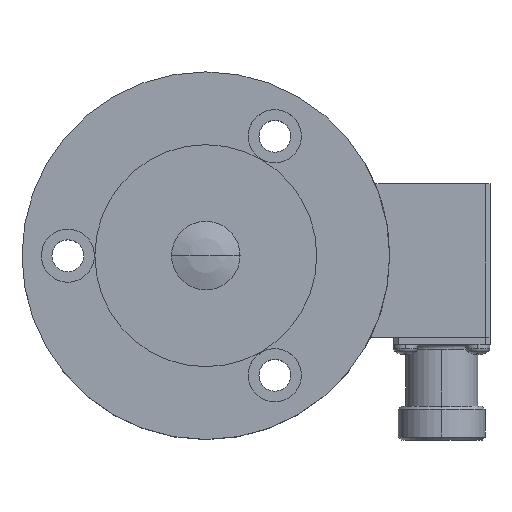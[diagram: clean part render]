
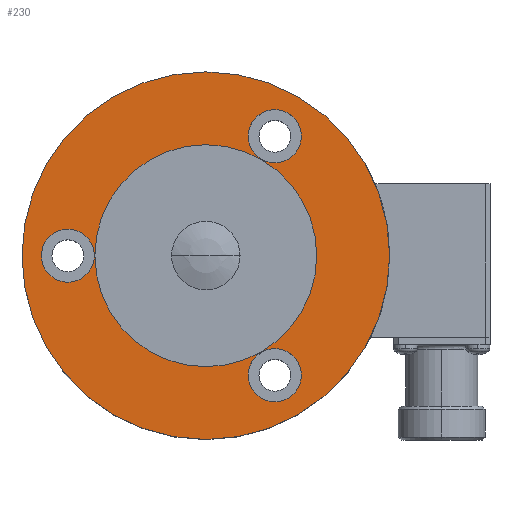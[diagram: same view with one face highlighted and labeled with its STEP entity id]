
A CAD part, top view. The second image highlights one B-rep face of the part: STEP entity #230.
In plain terms, the highlighted planar face has unit normal (0, 0, 1).
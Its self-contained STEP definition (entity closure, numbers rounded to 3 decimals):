
#230=ADVANCED_FACE('',(#560,#561,#562,#563,#564),#565,.T.);
#560=FACE_BOUND('',#902,.T.);
#561=FACE_BOUND('',#903,.T.);
#562=FACE_BOUND('',#904,.T.);
#563=FACE_BOUND('',#905,.T.);
#564=FACE_OUTER_BOUND('',#906,.T.);
#565=PLANE('',#907);
#902=EDGE_LOOP('',(#2120,#2121));
#903=EDGE_LOOP('',(#2122,#2123));
#904=EDGE_LOOP('',(#2124,#2125));
#905=EDGE_LOOP('',(#2126,#2127));
#906=EDGE_LOOP('',(#2128,#2129));
#907=AXIS2_PLACEMENT_3D('',#2130,#2131,#2132);
#2120=ORIENTED_EDGE('',*,*,#2537,.T.);
#2121=ORIENTED_EDGE('',*,*,#2213,.T.);
#2122=ORIENTED_EDGE('',*,*,#2545,.T.);
#2123=ORIENTED_EDGE('',*,*,#2197,.T.);
#2124=ORIENTED_EDGE('',*,*,#2547,.T.);
#2125=ORIENTED_EDGE('',*,*,#2193,.T.);
#2126=ORIENTED_EDGE('',*,*,#2549,.T.);
#2127=ORIENTED_EDGE('',*,*,#2189,.T.);
#2128=ORIENTED_EDGE('',*,*,#2179,.T.);
#2129=ORIENTED_EDGE('',*,*,#2552,.T.);
#2130=CARTESIAN_POINT('',(0.0,0.0,25.4));
#2131=DIRECTION('',(0.0,0.0,1.0));
#2132=DIRECTION('',(1.0,0.0,0.0));
#2179=EDGE_CURVE('',#2573,#2571,#2574,.T.);
#2189=EDGE_CURVE('',#2593,#2590,#2594,.T.);
#2193=EDGE_CURVE('',#2601,#2598,#2602,.T.);
#2197=EDGE_CURVE('',#2609,#2606,#2610,.T.);
#2213=EDGE_CURVE('',#2641,#2638,#2642,.T.);
#2537=EDGE_CURVE('',#2638,#2641,#3165,.T.);
#2545=EDGE_CURVE('',#2606,#2609,#3173,.T.);
#2547=EDGE_CURVE('',#2598,#2601,#3175,.T.);
#2549=EDGE_CURVE('',#2590,#2593,#3177,.T.);
#2552=EDGE_CURVE('',#2571,#2573,#3180,.T.);
#2571=VERTEX_POINT('',#3202);
#2573=VERTEX_POINT('',#3205);
#2574=CIRCLE('',#3206,38.1);
#2590=VERTEX_POINT('',#3226);
#2593=VERTEX_POINT('',#3230);
#2594=CIRCLE('',#3231,5.5);
#2598=VERTEX_POINT('',#3236);
#2601=VERTEX_POINT('',#3240);
#2602=CIRCLE('',#3241,5.5);
#2606=VERTEX_POINT('',#3246);
#2609=VERTEX_POINT('',#3250);
#2610=CIRCLE('',#3251,5.5);
#2638=VERTEX_POINT('',#3286);
#2641=VERTEX_POINT('',#3290);
#2642=CIRCLE('',#3291,23.0);
#3165=CIRCLE('',#4474,23.0);
#3173=CIRCLE('',#4482,5.5);
#3175=CIRCLE('',#4484,5.5);
#3177=CIRCLE('',#4486,5.5);
#3180=CIRCLE('',#4489,38.1);
#3202=CARTESIAN_POINT('',(-38.1,0.,25.4));
#3205=CARTESIAN_POINT('',(38.1,0.0,25.4));
#3206=AXIS2_PLACEMENT_3D('',#4511,#4512,#4513);
#3226=CARTESIAN_POINT('',(-34.1,0.,25.4));
#3230=CARTESIAN_POINT('',(-23.1,0.,25.4));
#3231=AXIS2_PLACEMENT_3D('',#4531,#4532,#4533);
#3236=CARTESIAN_POINT('',(17.05,-29.531,25.4));
#3240=CARTESIAN_POINT('',(11.55,-20.005,25.4));
#3241=AXIS2_PLACEMENT_3D('',#4539,#4540,#4541);
#3246=CARTESIAN_POINT('',(17.05,29.531,25.4));
#3250=CARTESIAN_POINT('',(11.55,20.005,25.4));
#3251=AXIS2_PLACEMENT_3D('',#4547,#4548,#4549);
#3286=CARTESIAN_POINT('',(23.0,0.0,25.4));
#3290=CARTESIAN_POINT('',(-23.0,0.,25.4));
#3291=AXIS2_PLACEMENT_3D('',#4579,#4580,#4581);
#4474=AXIS2_PLACEMENT_3D('',#5083,#5084,#5085);
#4482=AXIS2_PLACEMENT_3D('',#5107,#5108,#5109);
#4484=AXIS2_PLACEMENT_3D('',#5113,#5114,#5115);
#4486=AXIS2_PLACEMENT_3D('',#5119,#5120,#5121);
#4489=AXIS2_PLACEMENT_3D('',#5128,#5129,#5130);
#4511=CARTESIAN_POINT('',(0.0,0.0,25.4));
#4512=DIRECTION('',(0.0,0.0,1.0));
#4513=DIRECTION('',(1.0,0.0,0.0));
#4531=CARTESIAN_POINT('',(-28.6,0.,25.4));
#4532=DIRECTION('',(0.0,0.0,-1.0));
#4533=DIRECTION('',(-1.0,0.,0.0));
#4539=CARTESIAN_POINT('',(14.3,-24.768,25.4));
#4540=DIRECTION('',(0.0,0.0,-1.0));
#4541=DIRECTION('',(0.5,-0.866,0.0));
#4547=CARTESIAN_POINT('',(14.3,24.768,25.4));
#4548=DIRECTION('',(0.0,0.0,-1.0));
#4549=DIRECTION('',(0.5,0.866,0.0));
#4579=CARTESIAN_POINT('',(0.0,0.0,25.4));
#4580=DIRECTION('',(0.0,0.0,-1.0));
#4581=DIRECTION('',(1.0,0.0,0.0));
#5083=CARTESIAN_POINT('',(0.0,0.0,25.4));
#5084=DIRECTION('',(0.0,0.0,-1.0));
#5085=DIRECTION('',(1.0,0.0,0.0));
#5107=CARTESIAN_POINT('',(14.3,24.768,25.4));
#5108=DIRECTION('',(0.0,0.0,-1.0));
#5109=DIRECTION('',(0.5,0.866,0.0));
#5113=CARTESIAN_POINT('',(14.3,-24.768,25.4));
#5114=DIRECTION('',(0.0,0.0,-1.0));
#5115=DIRECTION('',(0.5,-0.866,0.0));
#5119=CARTESIAN_POINT('',(-28.6,0.,25.4));
#5120=DIRECTION('',(0.0,0.0,-1.0));
#5121=DIRECTION('',(-1.0,0.,0.0));
#5128=CARTESIAN_POINT('',(0.0,0.0,25.4));
#5129=DIRECTION('',(0.0,0.0,1.0));
#5130=DIRECTION('',(1.0,0.0,0.0));
